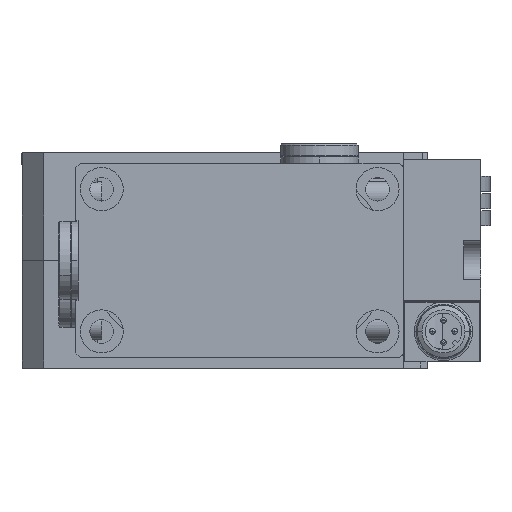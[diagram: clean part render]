
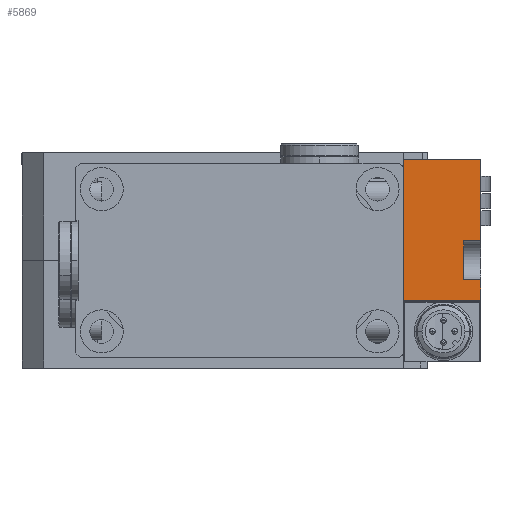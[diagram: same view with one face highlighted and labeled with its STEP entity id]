
A CAD part, front view. The second image highlights one B-rep face of the part: STEP entity #5869.
In plain terms, the highlighted planar face has unit normal (0, -1, 0).
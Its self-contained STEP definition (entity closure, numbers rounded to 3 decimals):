
#627 = LINE ( 'NONE', #17649, #2440 ) ;
#660 = EDGE_LOOP ( 'NONE', ( #7609, #11400, #14996, #4916, #12587, #12672, #15750, #17863 ) ) ;
#708 = LINE ( 'NONE', #10729, #7995 ) ;
#972 = EDGE_CURVE ( 'NONE', #10545, #18789, #22797, .T. ) ;
#1207 = CARTESIAN_POINT ( 'NONE',  ( 59.5, -98.5, 23.5 ) ) ;
#1480 = VECTOR ( 'NONE', #8398, 1000. ) ;
#1498 = LINE ( 'NONE', #6418, #21502 ) ;
#2102 = LINE ( 'NONE', #17411, #21504 ) ;
#2440 = VECTOR ( 'NONE', #10988, 1000. ) ;
#2807 = LINE ( 'NONE', #7967, #10659 ) ;
#2954 = LINE ( 'NONE', #16846, #1480 ) ;
#3191 = EDGE_CURVE ( 'NONE', #13518, #9257, #11077, .T. ) ;
#4070 = DIRECTION ( 'NONE',  ( 0., 0., 1. ) ) ;
#4916 = ORIENTED_EDGE ( 'NONE', *, *, #8710, .F. ) ;
#5126 = DIRECTION ( 'NONE',  ( 0., 0., -1. ) ) ;
#5385 = VERTEX_POINT ( 'NONE', #16939 ) ;
#5869 = ADVANCED_FACE ( 'NONE', ( #17404 ), #21855, .T. ) ;
#6418 = CARTESIAN_POINT ( 'NONE',  ( 59.5, -98.5, -9.3 ) ) ;
#7074 = DIRECTION ( 'NONE',  ( 0., 0., 1. ) ) ;
#7344 = CARTESIAN_POINT ( 'NONE',  ( 59.5, -98.5, -4.5 ) ) ;
#7518 = EDGE_CURVE ( 'NONE', #9392, #9257, #627, .T. ) ;
#7609 = ORIENTED_EDGE ( 'NONE', *, *, #3191, .F. ) ;
#7897 = CARTESIAN_POINT ( 'NONE',  ( 55.5, -98.5, 4.5 ) ) ;
#7967 = CARTESIAN_POINT ( 'NONE',  ( 59.5, -98.5, -9.5 ) ) ;
#7995 = VECTOR ( 'NONE', #16443, 1000. ) ;
#8051 = CARTESIAN_POINT ( 'NONE',  ( 41.5, -98.5, -9.5 ) ) ;
#8334 = VERTEX_POINT ( 'NONE', #7344 ) ;
#8398 = DIRECTION ( 'NONE',  ( 1., 0., 0. ) ) ;
#8425 = DIRECTION ( 'NONE',  ( 0., 0., 1. ) ) ;
#8710 = EDGE_CURVE ( 'NONE', #5385, #8334, #2954, .T. ) ;
#9238 = EDGE_CURVE ( 'NONE', #18837, #8334, #2807, .T. ) ;
#9257 = VERTEX_POINT ( 'NONE', #11593 ) ;
#9318 = VECTOR ( 'NONE', #8425, 1000. ) ;
#9392 = VERTEX_POINT ( 'NONE', #1207 ) ;
#10277 = CARTESIAN_POINT ( 'NONE',  ( 41.5, -98.5, -9.3 ) ) ;
#10545 = VERTEX_POINT ( 'NONE', #20275 ) ;
#10659 = VECTOR ( 'NONE', #4070, 1000. ) ;
#10729 = CARTESIAN_POINT ( 'NONE',  ( 55.5, -98.5, -9.5 ) ) ;
#10988 = DIRECTION ( 'NONE',  ( -1., 0., 0. ) ) ;
#11077 = LINE ( 'NONE', #8051, #9318 ) ;
#11400 = ORIENTED_EDGE ( 'NONE', *, *, #23613, .T. ) ;
#11593 = CARTESIAN_POINT ( 'NONE',  ( 41.5, -98.5, 23.5 ) ) ;
#12573 = AXIS2_PLACEMENT_3D ( 'NONE', #21986, #20881, #5126 ) ;
#12587 = ORIENTED_EDGE ( 'NONE', *, *, #16974, .T. ) ;
#12672 = ORIENTED_EDGE ( 'NONE', *, *, #972, .F. ) ;
#12922 = DIRECTION ( 'NONE',  ( -1., 0., 0. ) ) ;
#13518 = VERTEX_POINT ( 'NONE', #10277 ) ;
#14513 = VECTOR ( 'NONE', #12922, 1000. ) ;
#14996 = ORIENTED_EDGE ( 'NONE', *, *, #9238, .T. ) ;
#15750 = ORIENTED_EDGE ( 'NONE', *, *, #24350, .T. ) ;
#16443 = DIRECTION ( 'NONE',  ( 0., 0., 1. ) ) ;
#16846 = CARTESIAN_POINT ( 'NONE',  ( 59.5, -98.5, -4.5 ) ) ;
#16939 = CARTESIAN_POINT ( 'NONE',  ( 55.5, -98.5, -4.5 ) ) ;
#16974 = EDGE_CURVE ( 'NONE', #5385, #18789, #708, .T. ) ;
#17404 = FACE_OUTER_BOUND ( 'NONE', #660, .T. ) ;
#17411 = CARTESIAN_POINT ( 'NONE',  ( 59.5, -98.5, -9.5 ) ) ;
#17649 = CARTESIAN_POINT ( 'NONE',  ( 59.5, -98.5, 23.5 ) ) ;
#17863 = ORIENTED_EDGE ( 'NONE', *, *, #7518, .T. ) ;
#18645 = CARTESIAN_POINT ( 'NONE',  ( 59.5, -98.5, -9.3 ) ) ;
#18789 = VERTEX_POINT ( 'NONE', #7897 ) ;
#18837 = VERTEX_POINT ( 'NONE', #18645 ) ;
#19256 = CARTESIAN_POINT ( 'NONE',  ( 59.5, -98.5, 4.5 ) ) ;
#20275 = CARTESIAN_POINT ( 'NONE',  ( 59.5, -98.5, 4.5 ) ) ;
#20881 = DIRECTION ( 'NONE',  ( 0., -1., 0. ) ) ;
#21502 = VECTOR ( 'NONE', #23913, 1000. ) ;
#21504 = VECTOR ( 'NONE', #7074, 1000. ) ;
#21855 = PLANE ( 'NONE',  #12573 ) ;
#21986 = CARTESIAN_POINT ( 'NONE',  ( 59.5, -98.5, -9.5 ) ) ;
#22797 = LINE ( 'NONE', #19256, #14513 ) ;
#23613 = EDGE_CURVE ( 'NONE', #13518, #18837, #1498, .T. ) ;
#23913 = DIRECTION ( 'NONE',  ( 1., 0., 0. ) ) ;
#24350 = EDGE_CURVE ( 'NONE', #10545, #9392, #2102, .T. ) ;
